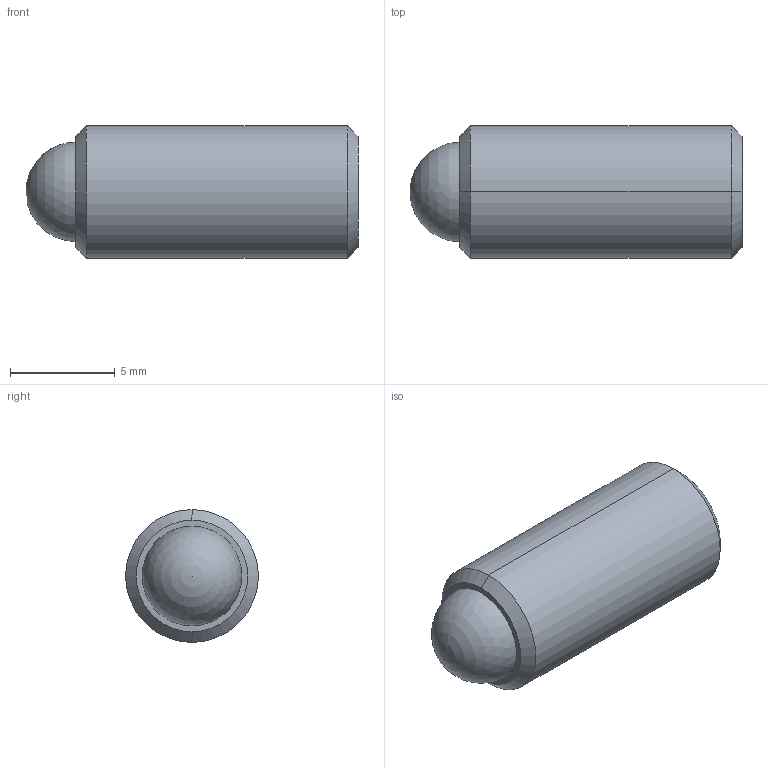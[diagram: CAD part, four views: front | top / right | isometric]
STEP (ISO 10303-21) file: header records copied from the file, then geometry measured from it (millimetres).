
FILE_DESCRIPTION (( 'STEP AP214' ), '1' );
FILE_NAME ('TS250-100-625-AA.STEP', '2013-02-13T13:59:54', ( 'workpc' ), ( 'Microsoft' ), 'SwSTEP 2.0', 'SolidWorks 2013', '' );
FILE_SCHEMA (( 'AUTOMOTIVE_DESIGN' ));
Length unit declared in the file: inch
Products named in the file (1): TS250-100-625-AA
Bounding box: 15.88 x 6.35 x 6.35 mm (x, y, z)
Volume: 435.9 mm3; surface area: 436.6 mm2
Topology: 2 solids, 2 shells, 20 faces, 45 edges, 29 vertices
Faces by surface type: plane 10, cylinder 4, cone 4, sphere 2
Entity records: 599 total; most frequent: DIRECTION 96, CARTESIAN_POINT 87, ORIENTED_EDGE 80, EDGE_CURVE 40, AXIS2_PLACEMENT_3D 35, VECTOR 26, LINE 26, VERTEX_POINT 26
